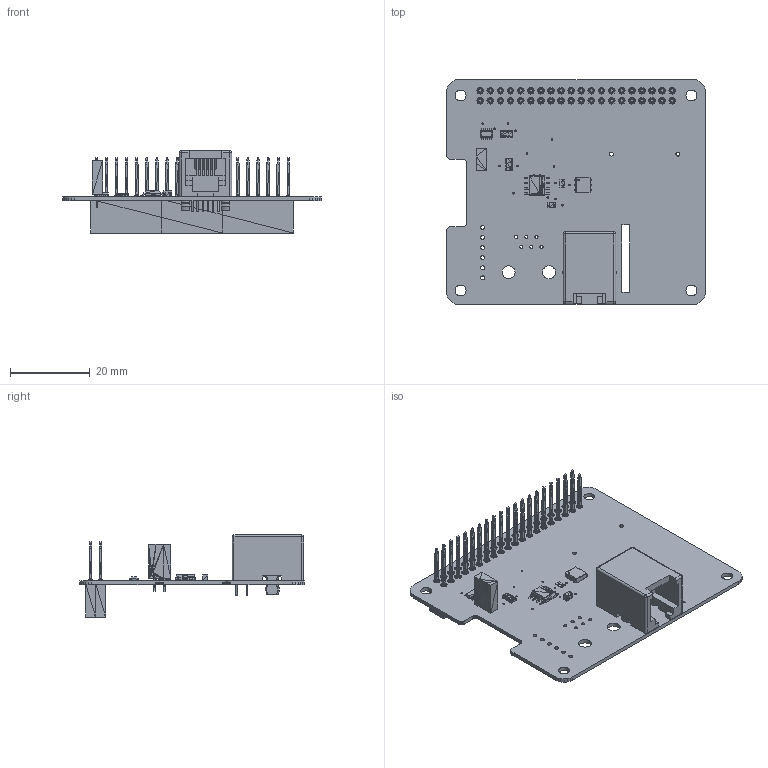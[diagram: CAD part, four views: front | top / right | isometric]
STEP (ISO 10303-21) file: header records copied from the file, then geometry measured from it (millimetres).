
FILE_DESCRIPTION(/* description */ (''),/* implementation_level */ '2;1');
FILE_NAME(/* name */ 'C:/Users/andrew/Desktop/3D Models/1-wire-pi-plus.step',/* time_stamp */ '2018-02-09T12:12:26+00:00',/* author */ ('and101'),/* organization */ (''),/* preprocessor_version */ 'ST-DEVELOPER v16.13',/* originating_system */ 'Autodesk Translation Framework v6.5.0.72',/* authorisation */ '');
FILE_SCHEMA (('AUTOMOTIVE_DESIGN { 1 0 10303 214 3 1 1 }'));
Products named in the file (11): 1-wire-pi-plus; Board_1-wire-pi-plus; 54601-906WPLFc; sot23-6; SW3dPS-TSOC6; cap_0805; 40_way_header; sip-2_5.6x2.5x2; rescav-8_1.6x3.2x0; res_0805; soic-8_150mil
Assembly tree (11 placements, depth 2):
  1-wire-pi-plus
    Board_1-wire-pi-plus
    54601-906WPLFc
    sot23-6
    SW3dPS-TSOC6
    cap_0805
    40_way_header
    sip-2_5.6x2.5x2
    rescav-8_1.6x3.2x0  x2
    res_0805
    soic-8_150mil
Bounding box: 65 x 56.5 x 20.65 mm (x, y, z)
Volume: 8313.5 mm3; surface area: 14191.9 mm2
Topology: 155 solids, 155 shells, 28301 faces, 43176 edges, 15192 vertices
Faces by surface type: plane 28056, cylinder 169, bspline 52, sphere 12, cone 8, torus 4
Full cylindrical faces by diameter (mm): 0.3 x1, 0.406 x17, 0.46 x12, 0.8 x12, 0.9 x2, 1 x48, 2.75 x4, 3.25 x4
Entity records: 527520 total; most frequent: DIRECTION 93553, CARTESIAN_POINT 84333, ORIENTED_EDGE 80708, EDGE_CURVE 40354, LINE 39685, VECTOR 39685, AXIS2_PLACEMENT_3D 26934, EDGE_LOOP 26616
